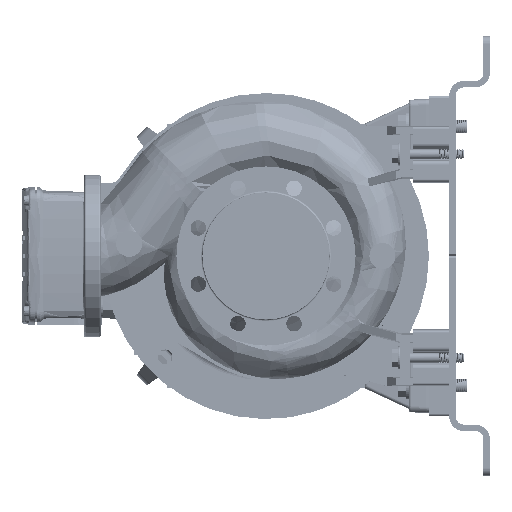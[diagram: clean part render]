
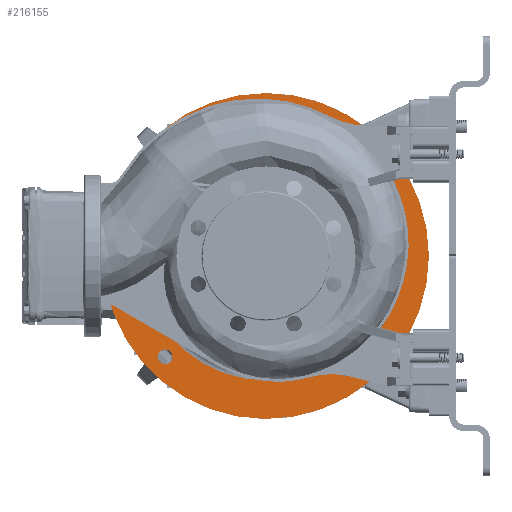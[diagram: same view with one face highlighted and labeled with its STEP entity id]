
A CAD part, left-side view. The second image highlights one B-rep face of the part: STEP entity #216155.
In plain terms, the highlighted planar face has unit normal (-1, 0, 0).
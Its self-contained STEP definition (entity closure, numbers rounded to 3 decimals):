
#1230 = CARTESIAN_POINT ( 'NONE',  ( 224., 0.001, 0.002 ) ) ;
#4557 = DIRECTION ( 'NONE',  ( -1., 0., 0. ) ) ;
#5893 = FACE_BOUND ( 'NONE', #117690, .T. ) ;
#8850 = AXIS2_PLACEMENT_3D ( 'NONE', #1230, #79562, #229186 ) ;
#9271 = DIRECTION ( 'NONE',  ( 1., 0., 0. ) ) ;
#9951 = FACE_BOUND ( 'NONE', #155766, .T. ) ;
#19835 = EDGE_CURVE ( 'NONE', #131006, #121153, #87564, .T. ) ;
#20269 = CARTESIAN_POINT ( 'NONE',  ( 224., 0.001, 0.002 ) ) ;
#23408 = CIRCLE ( 'NONE', #41103, 9. ) ;
#30111 = ORIENTED_EDGE ( 'NONE', *, *, #41962, .T. ) ;
#31323 = VERTEX_POINT ( 'NONE', #129644 ) ;
#34132 = DIRECTION ( 'NONE',  ( 1., 0., 0. ) ) ;
#34713 = CARTESIAN_POINT ( 'NONE',  ( 224., 0.001, -199.998 ) ) ;
#36062 = EDGE_CURVE ( 'NONE', #261550, #86527, #168809, .T. ) ;
#36858 = DIRECTION ( 'NONE',  ( 0., 0., 1. ) ) ;
#41103 = AXIS2_PLACEMENT_3D ( 'NONE', #162008, #98746, #96052 ) ;
#41935 = EDGE_CURVE ( 'NONE', #121153, #261550, #120080, .T. ) ;
#41962 = EDGE_CURVE ( 'NONE', #151642, #252881, #23408, .T. ) ;
#43292 = CARTESIAN_POINT ( 'NONE',  ( 224., 123.745, 123.745 ) ) ;
#44203 = CARTESIAN_POINT ( 'NONE',  ( 224., 123.745, 123.745 ) ) ;
#45956 = DIRECTION ( 'NONE',  ( 0., 0., 1. ) ) ;
#50395 = AXIS2_PLACEMENT_3D ( 'NONE', #179439, #263159, #75048 ) ;
#51595 = AXIS2_PLACEMENT_3D ( 'NONE', #169430, #253128, #202182 ) ;
#53282 = ORIENTED_EDGE ( 'NONE', *, *, #36062, .T. ) ;
#54864 = CARTESIAN_POINT ( 'NONE',  ( 224., 0.001, 0.002 ) ) ;
#55197 = VERTEX_POINT ( 'NONE', #68464 ) ;
#61452 = CARTESIAN_POINT ( 'NONE',  ( 224., 0.001, 0.002 ) ) ;
#61918 = AXIS2_PLACEMENT_3D ( 'NONE', #226147, #138337, #139723 ) ;
#68464 = CARTESIAN_POINT ( 'NONE',  ( 224., -123.743, -114.742 ) ) ;
#70077 = EDGE_CURVE ( 'NONE', #97137, #55197, #117275, .T. ) ;
#75048 = DIRECTION ( 'NONE',  ( 0., 0., -1. ) ) ;
#77110 = EDGE_LOOP ( 'NONE', ( #179601, #217620 ) ) ;
#77526 = ORIENTED_EDGE ( 'NONE', *, *, #99799, .T. ) ;
#79470 = EDGE_CURVE ( 'NONE', #87850, #83248, #217486, .T. ) ;
#79562 = DIRECTION ( 'NONE',  ( 1., 0., 0. ) ) ;
#83248 = VERTEX_POINT ( 'NONE', #125857 ) ;
#84096 = ORIENTED_EDGE ( 'NONE', *, *, #161994, .T. ) ;
#85034 = EDGE_CURVE ( 'NONE', #101977, #117117, #142310, .T. ) ;
#86527 = VERTEX_POINT ( 'NONE', #217556 ) ;
#87236 = CARTESIAN_POINT ( 'NONE',  ( 224., -123.743, 123.745 ) ) ;
#87564 = CIRCLE ( 'NONE', #131502, 152.679 ) ;
#87850 = VERTEX_POINT ( 'NONE', #169686 ) ;
#88038 = CIRCLE ( 'NONE', #250373, 9. ) ;
#88272 = CARTESIAN_POINT ( 'NONE',  ( 224., 200.001, 0.002 ) ) ;
#90053 = EDGE_CURVE ( 'NONE', #55197, #97137, #239457, .T. ) ;
#94509 = AXIS2_PLACEMENT_3D ( 'NONE', #179524, #9271, #157609 ) ;
#96052 = DIRECTION ( 'NONE',  ( 0., 0., 1. ) ) ;
#97137 = VERTEX_POINT ( 'NONE', #212936 ) ;
#97398 = CARTESIAN_POINT ( 'NONE',  ( 224., 0.001, -152.678 ) ) ;
#98746 = DIRECTION ( 'NONE',  ( 1., 0., 0. ) ) ;
#99799 = EDGE_CURVE ( 'NONE', #252881, #151642, #88038, .T. ) ;
#100414 = CARTESIAN_POINT ( 'NONE',  ( 224., 0.001, 152.681 ) ) ;
#100530 = EDGE_LOOP ( 'NONE', ( #239829, #235839 ) ) ;
#101259 = CIRCLE ( 'NONE', #61918, 9. ) ;
#101977 = VERTEX_POINT ( 'NONE', #201625 ) ;
#103939 = DIRECTION ( 'NONE',  ( 0., 0., -1. ) ) ;
#107320 = DIRECTION ( 'NONE',  ( 0., 0., 1. ) ) ;
#107896 = AXIS2_PLACEMENT_3D ( 'NONE', #135036, #220139, #132324 ) ;
#117117 = VERTEX_POINT ( 'NONE', #159347 ) ;
#117275 = CIRCLE ( 'NONE', #51595, 9. ) ;
#117690 = EDGE_LOOP ( 'NONE', ( #158421, #166133, #53282, #84096 ) ) ;
#120080 = CIRCLE ( 'NONE', #225136, 152.679 ) ;
#121153 = VERTEX_POINT ( 'NONE', #97398 ) ;
#123309 = DIRECTION ( 'NONE',  ( 1., 0., 0. ) ) ;
#124634 = CARTESIAN_POINT ( 'NONE',  ( 224., 123.745, -132.742 ) ) ;
#125737 = AXIS2_PLACEMENT_3D ( 'NONE', #87236, #171075, #254774 ) ;
#125857 = CARTESIAN_POINT ( 'NONE',  ( 224., -123.743, 132.745 ) ) ;
#126881 = ORIENTED_EDGE ( 'NONE', *, *, #182361, .F. ) ;
#129644 = CARTESIAN_POINT ( 'NONE',  ( 224., 0.001, 200.002 ) ) ;
#131006 = VERTEX_POINT ( 'NONE', #248219 ) ;
#131502 = AXIS2_PLACEMENT_3D ( 'NONE', #20269, #123309, #164540 ) ;
#132222 = FACE_BOUND ( 'NONE', #100530, .T. ) ;
#132324 = DIRECTION ( 'NONE',  ( 0., 0., 1. ) ) ;
#135036 = CARTESIAN_POINT ( 'NONE',  ( 224., -123.743, -123.742 ) ) ;
#138062 = VERTEX_POINT ( 'NONE', #34713 ) ;
#138337 = DIRECTION ( 'NONE',  ( 1., 0., 0. ) ) ;
#139723 = DIRECTION ( 'NONE',  ( 0., 0., 1. ) ) ;
#142310 = CIRCLE ( 'NONE', #199126, 9. ) ;
#147966 = ORIENTED_EDGE ( 'NONE', *, *, #85034, .T. ) ;
#151642 = VERTEX_POINT ( 'NONE', #124634 ) ;
#155766 = EDGE_LOOP ( 'NONE', ( #202059, #147966 ) ) ;
#157609 = DIRECTION ( 'NONE',  ( 0., 0., 1. ) ) ;
#158421 = ORIENTED_EDGE ( 'NONE', *, *, #19835, .T. ) ;
#158643 = CIRCLE ( 'NONE', #193695, 200. ) ;
#159347 = CARTESIAN_POINT ( 'NONE',  ( 224., 123.745, 114.745 ) ) ;
#161994 = EDGE_CURVE ( 'NONE', #86527, #131006, #234687, .T. ) ;
#162008 = CARTESIAN_POINT ( 'NONE',  ( 224., 123.745, -123.742 ) ) ;
#162799 = ORIENTED_EDGE ( 'NONE', *, *, #184316, .F. ) ;
#164540 = DIRECTION ( 'NONE',  ( 0., 0., -1. ) ) ;
#166133 = ORIENTED_EDGE ( 'NONE', *, *, #41935, .T. ) ;
#168659 = EDGE_CURVE ( 'NONE', #117117, #101977, #213909, .T. ) ;
#168809 = CIRCLE ( 'NONE', #50395, 152.679 ) ;
#169430 = CARTESIAN_POINT ( 'NONE',  ( 224., -123.743, -123.742 ) ) ;
#169686 = CARTESIAN_POINT ( 'NONE',  ( 224., -123.743, 114.745 ) ) ;
#170986 = DIRECTION ( 'NONE',  ( 1., 0., 0. ) ) ;
#171075 = DIRECTION ( 'NONE',  ( 1., 0., 0. ) ) ;
#172116 = DIRECTION ( 'NONE',  ( 0., 0., 1. ) ) ;
#175996 = EDGE_LOOP ( 'NONE', ( #126881, #162799 ) ) ;
#178489 = DIRECTION ( 'NONE',  ( 0., 0., -1. ) ) ;
#179439 = CARTESIAN_POINT ( 'NONE',  ( 224., 0.001, 0.002 ) ) ;
#179524 = CARTESIAN_POINT ( 'NONE',  ( 224., -134.997, 0.002 ) ) ;
#179568 = AXIS2_PLACEMENT_3D ( 'NONE', #88272, #4557, #172116 ) ;
#179601 = ORIENTED_EDGE ( 'NONE', *, *, #79470, .T. ) ;
#182361 = EDGE_CURVE ( 'NONE', #138062, #31323, #241326, .T. ) ;
#184316 = EDGE_CURVE ( 'NONE', #31323, #138062, #158643, .T. ) ;
#193695 = AXIS2_PLACEMENT_3D ( 'NONE', #61452, #211056, #103939 ) ;
#194035 = PLANE ( 'NONE',  #179568 ) ;
#198097 = FACE_BOUND ( 'NONE', #77110, .T. ) ;
#199126 = AXIS2_PLACEMENT_3D ( 'NONE', #44203, #211721, #107320 ) ;
#200305 = CARTESIAN_POINT ( 'NONE',  ( 224., 123.745, -123.742 ) ) ;
#201625 = CARTESIAN_POINT ( 'NONE',  ( 224., 123.745, 132.745 ) ) ;
#202059 = ORIENTED_EDGE ( 'NONE', *, *, #168659, .T. ) ;
#202182 = DIRECTION ( 'NONE',  ( 0., 0., 1. ) ) ;
#203206 = EDGE_LOOP ( 'NONE', ( #30111, #77526 ) ) ;
#209229 = CARTESIAN_POINT ( 'NONE',  ( 224., 123.745, -114.742 ) ) ;
#211056 = DIRECTION ( 'NONE',  ( 1., 0., 0. ) ) ;
#211721 = DIRECTION ( 'NONE',  ( 1., 0., 0. ) ) ;
#212936 = CARTESIAN_POINT ( 'NONE',  ( 224., -123.743, -132.742 ) ) ;
#213909 = CIRCLE ( 'NONE', #262274, 9. ) ;
#216155 = ADVANCED_FACE ( 'NONE', ( #255815, #235189, #9951, #198097, #132222, #5893 ), #194035, .T. ) ;
#217486 = CIRCLE ( 'NONE', #125737, 9. ) ;
#217556 = CARTESIAN_POINT ( 'NONE',  ( 224., -151.791, 16.44 ) ) ;
#217620 = ORIENTED_EDGE ( 'NONE', *, *, #221411, .T. ) ;
#220139 = DIRECTION ( 'NONE',  ( 1., 0., 0. ) ) ;
#221411 = EDGE_CURVE ( 'NONE', #83248, #87850, #101259, .T. ) ;
#225136 = AXIS2_PLACEMENT_3D ( 'NONE', #54864, #242976, #178489 ) ;
#226147 = CARTESIAN_POINT ( 'NONE',  ( 224., -123.743, 123.745 ) ) ;
#229186 = DIRECTION ( 'NONE',  ( 0., 0., -1. ) ) ;
#234687 = CIRCLE ( 'NONE', #94509, 23.5 ) ;
#235189 = FACE_BOUND ( 'NONE', #203206, .T. ) ;
#235839 = ORIENTED_EDGE ( 'NONE', *, *, #90053, .T. ) ;
#239457 = CIRCLE ( 'NONE', #107896, 9. ) ;
#239829 = ORIENTED_EDGE ( 'NONE', *, *, #70077, .T. ) ;
#241326 = CIRCLE ( 'NONE', #8850, 200. ) ;
#242976 = DIRECTION ( 'NONE',  ( 1., 0., 0. ) ) ;
#248219 = CARTESIAN_POINT ( 'NONE',  ( 224., -151.791, -16.437 ) ) ;
#250373 = AXIS2_PLACEMENT_3D ( 'NONE', #200305, #34132, #36858 ) ;
#252881 = VERTEX_POINT ( 'NONE', #209229 ) ;
#253128 = DIRECTION ( 'NONE',  ( 1., 0., 0. ) ) ;
#254774 = DIRECTION ( 'NONE',  ( 0., 0., 1. ) ) ;
#255815 = FACE_OUTER_BOUND ( 'NONE', #175996, .T. ) ;
#261550 = VERTEX_POINT ( 'NONE', #100414 ) ;
#262274 = AXIS2_PLACEMENT_3D ( 'NONE', #43292, #170986, #45956 ) ;
#263159 = DIRECTION ( 'NONE',  ( 1., 0., 0. ) ) ;
